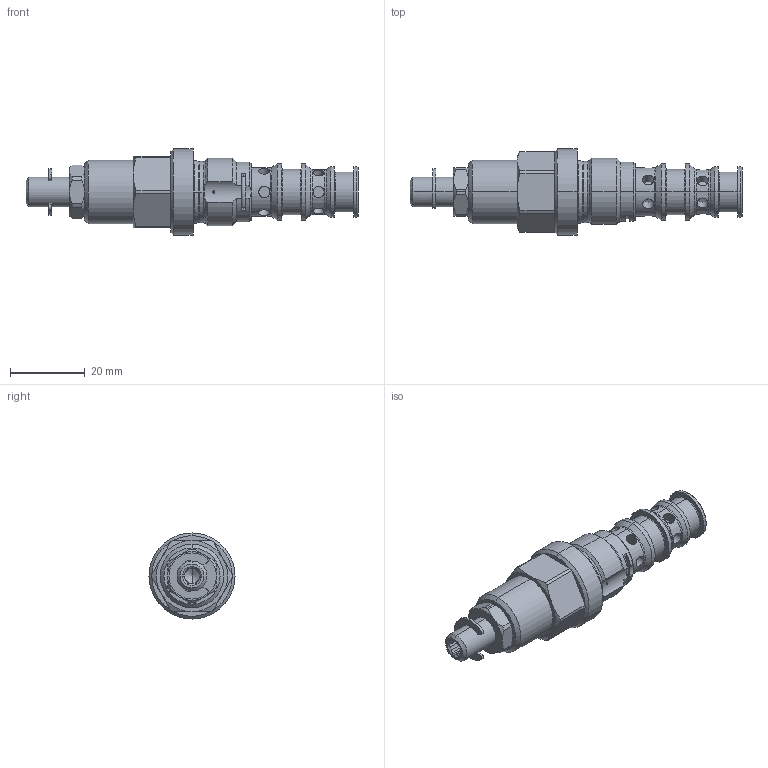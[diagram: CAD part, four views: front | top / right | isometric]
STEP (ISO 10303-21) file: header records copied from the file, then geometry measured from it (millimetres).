
FILE_DESCRIPTION (( 'STEP AP214' ), '1' );
FILE_NAME ('MVSPM18.STEP', '2021-08-27T08:36:32', ( '' ), ( '' ), 'SwSTEP 2.0', 'SolidWorks 2020', '' );
FILE_SCHEMA (( 'AUTOMOTIVE_DESIGN' ));
Length unit declared in the file: millimetre
Products named in the file (1): MVSPM18
Bounding box: 88.6 x 23 x 23 mm (x, y, z)
Volume: 16284.7 mm3; surface area: 5864.5 mm2
Topology: 1 solids, 1 shells, 233 faces, 543 edges, 331 vertices
Faces by surface type: cylinder 89, plane 73, cone 50, torus 21
Entity records: 10066 total; most frequent: CARTESIAN_POINT 2150, DIRECTION 1168, ORIENTED_EDGE 1082, EDGE_CURVE 541, AXIS2_PLACEMENT_3D 491, VERTEX_POINT 331, EDGE_LOOP 258, CIRCLE 257
